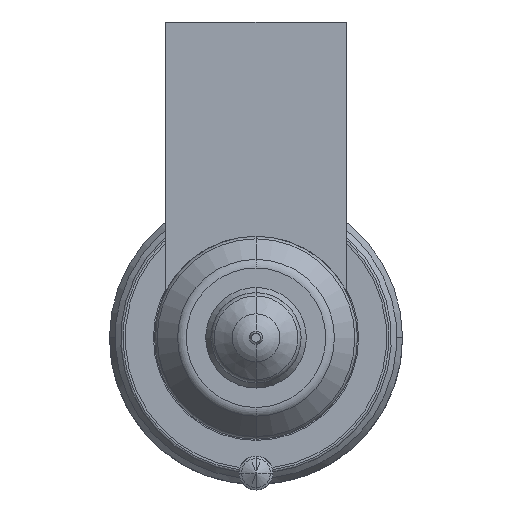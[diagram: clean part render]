
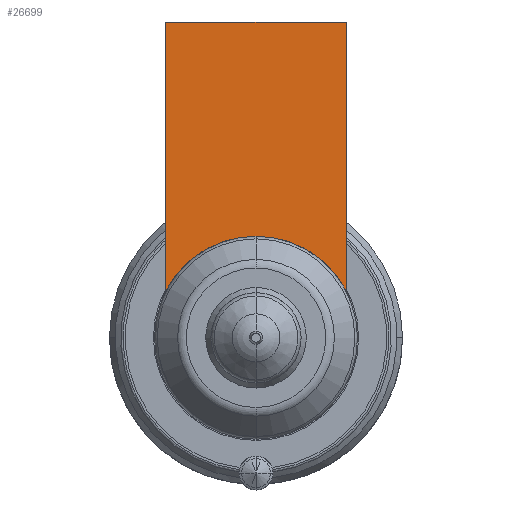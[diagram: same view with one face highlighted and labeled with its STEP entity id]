
A CAD part, front view. The second image highlights one B-rep face of the part: STEP entity #26699.
In plain terms, the highlighted planar face has unit normal (0, -1, 0).
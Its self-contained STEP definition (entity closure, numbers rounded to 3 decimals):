
#25816=DIRECTION('',(1.,0.,0.));
#25817=VECTOR('',#25816,16.);
#25818=CARTESIAN_POINT('',(-8.,-54.,28.));
#25819=LINE('',#25818,#25817);
#25824=CARTESIAN_POINT('',(0.,-54.,0.));
#25825=DIRECTION('',(0.,-1.,0.));
#25826=DIRECTION('',(0.889,0.,0.458));
#25827=AXIS2_PLACEMENT_3D('',#25824,#25825,#25826);
#25832=CARTESIAN_POINT('',(0.,-54.,0.));
#25833=DIRECTION('',(0.,-1.,0.));
#25834=DIRECTION('',(0.,0.,1.));
#25835=AXIS2_PLACEMENT_3D('',#25832,#25833,#25834);
#25861=DIRECTION('',(0.,0.,-1.));
#25862=VECTOR('',#25861,23.877);
#25863=CARTESIAN_POINT('',(-8.,-54.,28.));
#25864=LINE('',#25863,#25862);
#26543=DIRECTION('',(0.,0.,-1.));
#26544=VECTOR('',#26543,23.877);
#26545=CARTESIAN_POINT('',(8.,-54.,28.));
#26546=LINE('',#26545,#26544);
#26596=CARTESIAN_POINT('',(-8.,-54.,28.));
#26597=VERTEX_POINT('',#26596);
#26602=CARTESIAN_POINT('',(8.,-54.,28.));
#26603=VERTEX_POINT('',#26602);
#26606=CARTESIAN_POINT('',(-8.,-54.,4.123));
#26607=VERTEX_POINT('',#26606);
#26610=CARTESIAN_POINT('',(8.,-54.,4.123));
#26611=VERTEX_POINT('',#26610);
#26680=CARTESIAN_POINT('',(0.,-54.,9.));
#26681=VERTEX_POINT('',#26680);
#26682=CARTESIAN_POINT('',(0.,-54.,9.));
#26683=DIRECTION('',(0.,1.,0.));
#26684=DIRECTION('',(0.,0.,-1.));
#26685=AXIS2_PLACEMENT_3D('',#26682,#26683,#26684);
#26686=PLANE('',#26685);
#26688=ORIENTED_EDGE('',*,*,#26687,.F.);
#26690=ORIENTED_EDGE('',*,*,#26689,.T.);
#26692=ORIENTED_EDGE('',*,*,#26691,.T.);
#26694=ORIENTED_EDGE('',*,*,#26693,.T.);
#26696=ORIENTED_EDGE('',*,*,#26695,.T.);
#26697=EDGE_LOOP('',(#26688,#26690,#26692,#26694,#26696));
#26698=FACE_OUTER_BOUND('',#26697,.F.);
#26699=ADVANCED_FACE('',(#26698),#26686,.F.);
#25828=CIRCLE('',#25827,9.);
#25836=CIRCLE('',#25835,9.);
#26687=EDGE_CURVE('',#26597,#26607,#25864,.T.);
#26689=EDGE_CURVE('',#26597,#26603,#25819,.T.);
#26691=EDGE_CURVE('',#26603,#26611,#26546,.T.);
#26693=EDGE_CURVE('',#26611,#26681,#25828,.T.);
#26695=EDGE_CURVE('',#26681,#26607,#25836,.T.);
